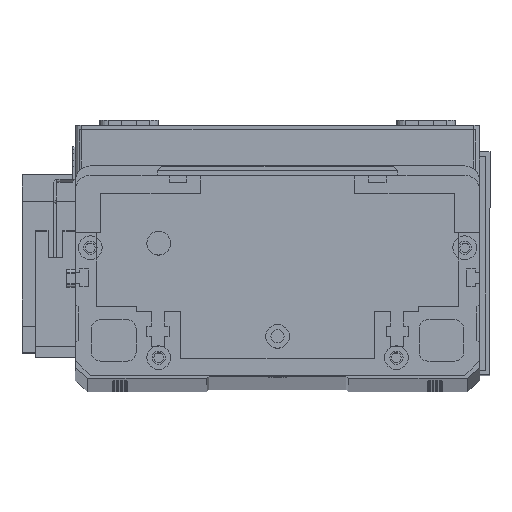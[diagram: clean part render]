
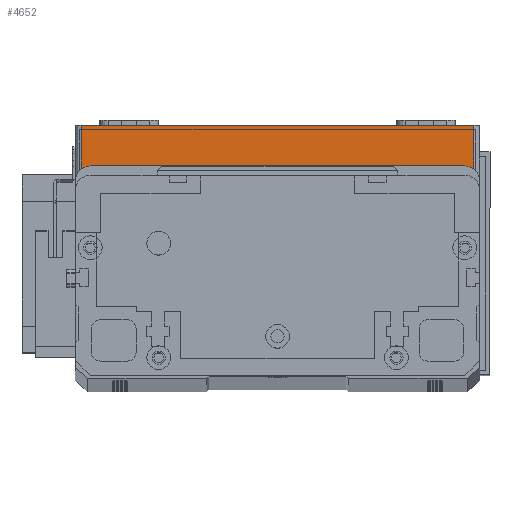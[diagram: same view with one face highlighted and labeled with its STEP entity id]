
A CAD part, top view. The second image highlights one B-rep face of the part: STEP entity #4652.
In plain terms, the highlighted planar face has unit normal (0, 0, 1) as drawn and (0, -1, 0) by its records, which use the part's own axes.
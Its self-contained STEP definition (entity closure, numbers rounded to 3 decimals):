
#736 = VECTOR ( 'NONE', #20655, 1000. ) ;
#1749 = DIRECTION ( 'NONE',  ( 0., 0., 1. ) ) ;
#2621 = EDGE_CURVE ( 'NONE', #11081, #13882, #3372, .T. ) ;
#3372 = LINE ( 'NONE', #25362, #21485 ) ;
#3612 = LINE ( 'NONE', #12759, #15401 ) ;
#4163 = DIRECTION ( 'NONE',  ( 1., 0., 0. ) ) ;
#4191 = EDGE_CURVE ( 'NONE', #13882, #23825, #19570, .T. ) ;
#4652 = ADVANCED_FACE ( 'NONE', ( #20287 ), #27660, .F. ) ;
#7957 = LINE ( 'NONE', #26694, #25344 ) ;
#8079 = ORIENTED_EDGE ( 'NONE', *, *, #20583, .F. ) ;
#8209 = EDGE_CURVE ( 'NONE', #14329, #11081, #7957, .T. ) ;
#8814 = CARTESIAN_POINT ( 'NONE',  ( 2., 0., 19.5 ) ) ;
#9459 = CARTESIAN_POINT ( 'NONE',  ( 134., 0., 0. ) ) ;
#11081 = VERTEX_POINT ( 'NONE', #26795 ) ;
#12404 = DIRECTION ( 'NONE',  ( 0., 0., -1. ) ) ;
#12759 = CARTESIAN_POINT ( 'NONE',  ( 0., 0., 19.5 ) ) ;
#13484 = CARTESIAN_POINT ( 'NONE',  ( 0., 0., 19.5 ) ) ;
#13882 = VERTEX_POINT ( 'NONE', #9459 ) ;
#14329 = VERTEX_POINT ( 'NONE', #8814 ) ;
#15401 = VECTOR ( 'NONE', #26934, 1000. ) ;
#15881 = DIRECTION ( 'NONE',  ( 0., 1., 0. ) ) ;
#16673 = ORIENTED_EDGE ( 'NONE', *, *, #4191, .T. ) ;
#18250 = CARTESIAN_POINT ( 'NONE',  ( 134., 0., 19.5 ) ) ;
#18484 = AXIS2_PLACEMENT_3D ( 'NONE', #13484, #15881, #1749 ) ;
#19570 = LINE ( 'NONE', #18250, #736 ) ;
#20287 = FACE_OUTER_BOUND ( 'NONE', #20724, .T. ) ;
#20583 = EDGE_CURVE ( 'NONE', #14329, #23825, #3612, .T. ) ;
#20655 = DIRECTION ( 'NONE',  ( 0., 0., 1. ) ) ;
#20724 = EDGE_LOOP ( 'NONE', ( #8079, #27038, #29849, #16673 ) ) ;
#21485 = VECTOR ( 'NONE', #4163, 1000. ) ;
#23825 = VERTEX_POINT ( 'NONE', #26500 ) ;
#25344 = VECTOR ( 'NONE', #12404, 1000. ) ;
#25362 = CARTESIAN_POINT ( 'NONE',  ( 0., 0., 0. ) ) ;
#26500 = CARTESIAN_POINT ( 'NONE',  ( 134., 0., 19.5 ) ) ;
#26694 = CARTESIAN_POINT ( 'NONE',  ( 2., 0., 19.5 ) ) ;
#26795 = CARTESIAN_POINT ( 'NONE',  ( 2., 0., 0. ) ) ;
#26934 = DIRECTION ( 'NONE',  ( 1., 0., 0. ) ) ;
#27038 = ORIENTED_EDGE ( 'NONE', *, *, #8209, .T. ) ;
#27660 = PLANE ( 'NONE',  #18484 ) ;
#29849 = ORIENTED_EDGE ( 'NONE', *, *, #2621, .T. ) ;
